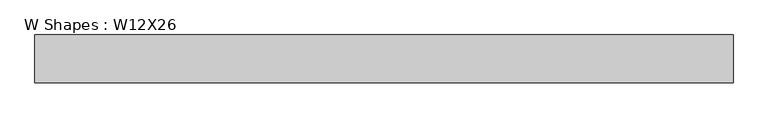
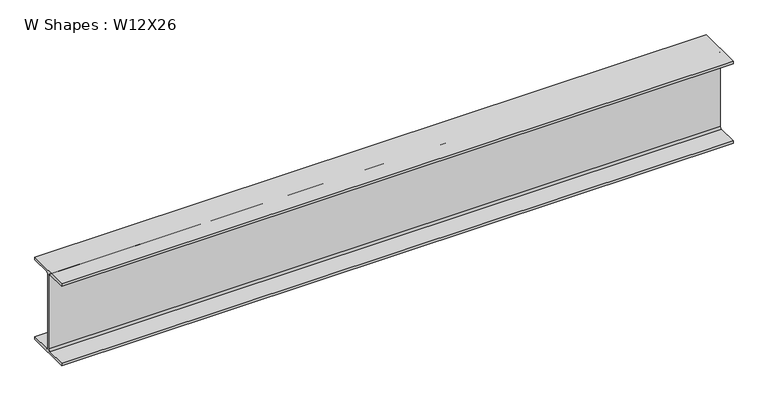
"""IFC4 building model written with IfcOpenShell, lengths in millimetres: beam geometry, W Shapes : W12X26."""

from ifc_helpers import new_model, si_unit, point, frame, frame_2d, origin, place, context, project, spatial, polyline, circle_curve, trimmed, segment, composite_curve, outline, extrude, source, transform, mapped, element, save


def w_shapes_w12x26_1a00c8bd(model_context):
    return source(origin(), model_context, "Body", "SweptSolid", [
        extrude(outline(composite_curve([segment(polyline([(82.423, -145.288), (82.423, -154.94), (-82.423, -154.94), (-82.423, -145.288), (-10.541, -145.288)]), True, "CONTINUOUS"), segment(trimmed(circle_curve(frame_2d((-10.541, -137.668)), 7.62), [point((-10.541, -145.288))], [point((-2.921, -137.668))], True, "CARTESIAN"), True, "CONTINUOUS"), segment(polyline([(-2.921, -137.668), (-2.921, 137.668)]), True, "CONTINUOUS"), segment(trimmed(circle_curve(frame_2d((-10.541, 137.668)), 7.62), [point((-2.921, 137.668))], [point((-10.541, 145.288))], True, "CARTESIAN"), True, "CONTINUOUS"), segment(polyline([(-10.541, 145.288), (-82.423, 145.288), (-82.423, 154.94), (82.423, 154.94), (82.423, 145.288), (10.541, 145.288)]), True, "CONTINUOUS"), segment(trimmed(circle_curve(frame_2d((10.541, 137.668)), 7.62), [point((10.541, 145.288))], [point((2.921, 137.668))], True, "CARTESIAN"), True, "CONTINUOUS"), segment(polyline([(2.921, 137.668), (2.921, -137.668)]), True, "CONTINUOUS"), segment(trimmed(circle_curve(frame_2d((10.541, -137.668)), 7.62), [point((2.921, -137.668))], [point((10.541, -145.288))], True, "CARTESIAN"), True, "CONTINUOUS"), segment(polyline([(10.541, -145.288), (82.423, -145.288)]), True, "CONTINUOUS")], self_intersect=False)), frame((-1198.8165, 0.0, 0.0), z_axis=(1.0, 0.0, 0.0), x_axis=(0.0, 1.0, 0.0)), (0.0, 0.0, 1.0), 2397.633),
    ])


if __name__ == "__main__":
    model = new_model("IFC4")
    model_context = context("Model", 3, world=origin())
    ifc_project = project(units=[si_unit("LENGTHUNIT", "METRE", prefix="MILLI")], contexts=[model_context])
    site = spatial("IfcSite", under=ifc_project)
    building = spatial("IfcBuilding", under=site)
    placement = place(None, origin())
    w_shapes_w12x26_shape = w_shapes_w12x26_1a00c8bd(model_context)
    element("IfcBeam", 1, ObjectType="W Shapes : W12X26", at=placement, inside=building, context=model_context, shape_type="MappedRepresentation", body=[
        mapped(w_shapes_w12x26_shape, transform((0.0, 0.0, 0.0), x_axis=(1.0, 0.0, 0.0), y_axis=(0.0, 1.0, 0.0), z_axis=(0.0, 0.0, 1.0))),
    ])
    save(model, "model.ifc")
